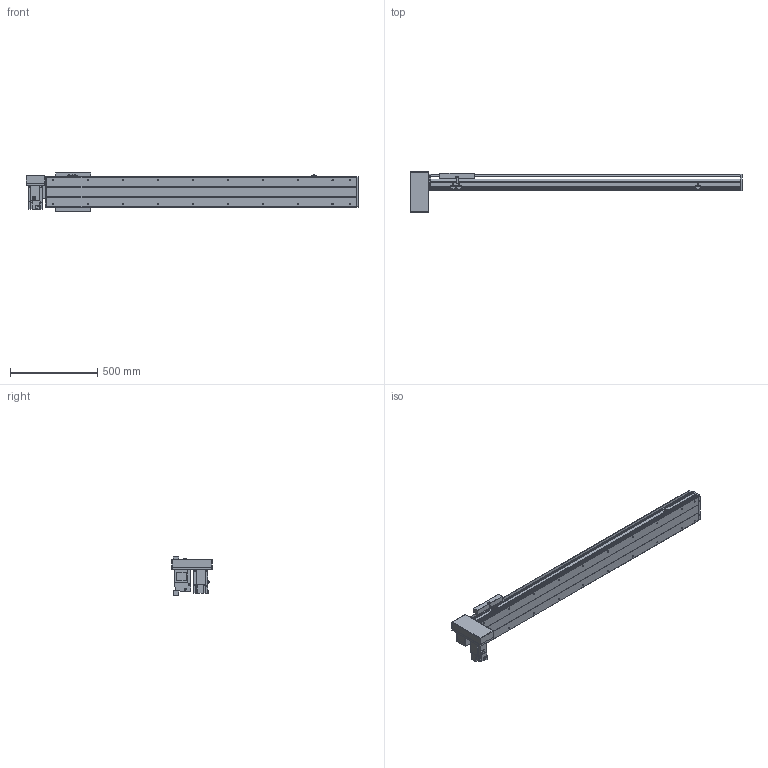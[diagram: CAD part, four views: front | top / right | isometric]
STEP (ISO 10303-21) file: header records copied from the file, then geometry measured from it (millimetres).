
FILE_DESCRIPTION(/* description */ ('STEP AP214'),/* implementation_level */ '2;1');
FILE_NAME(/* name */ 'PBS200-P40-S1400-RD-T75-C1-N(0)',/* time_stamp */ '2022-06-11T09:29:53+02:00',/* author */ ('License CC BY-ND 4.0'),/* organization */ ('CADENAS'),/* preprocessor_version */ 'ST-DEVELOPER v18.102',/* originating_system */ 'PARTsolutions',/* authorisation */ ' ');
FILE_SCHEMA (('AUTOMOTIVE_DESIGN {1 0 10303 214 3 1 1}'));
Length unit declared in the file: millimetre
Products named in the file (7): PBS200-P40-S1400-RD-T75-C1-N(0); PBS200_sensor; PBS200_plant; PBS200_sliser; T75-p1; PBS200T-RD_motors; PBS200-S1400()_body
Assembly tree (8 placements, depth 2):
  PBS200-P40-S1400-RD-T75-C1-N(0)
    PBS200_sensor  x3
    PBS200_plant
    PBS200_sliser
    T75-p1
    PBS200T-RD_motors
    PBS200-S1400()_body
Bounding box: 1900 x 230 x 221 mm (x, y, z)
Volume: 13734912.3 mm3; surface area: 2213444.9 mm2
Topology: 8 solids, 8 shells, 932 faces, 2394 edges, 1560 vertices
Faces by surface type: plane 578, cylinder 302, cone 52
Full cylindrical faces by diameter (mm): 2.459 x6, 3.242 x4, 4.5 x6, 4.917 x4, 5 x6, 6 x7, 6.6 x8, 6.647 x24, 8 x6, 10 x4, 12 x8, 38 x2, 40 x1, 70 x1
Entity records: 24821 total; most frequent: DIRECTION 4375, CARTESIAN_POINT 4228, ORIENTED_EDGE 4006, EDGE_CURVE 2003, AXIS2_PLACEMENT_3D 1531, VERTEX_POINT 1384, LINE 1313, VECTOR 1313
